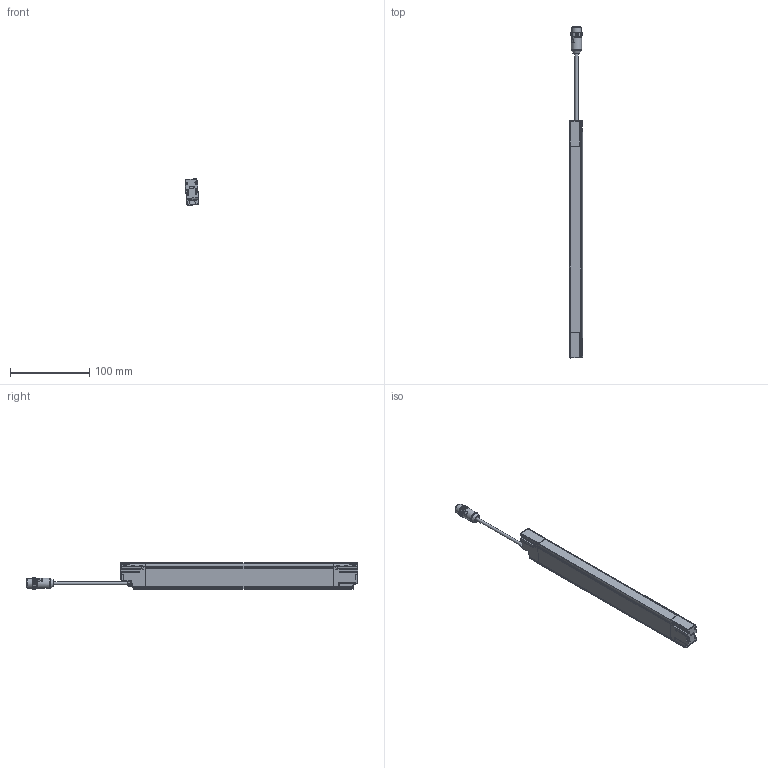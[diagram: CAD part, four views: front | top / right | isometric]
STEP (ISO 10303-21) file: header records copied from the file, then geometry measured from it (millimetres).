
FILE_DESCRIPTION(/* description */ (''),/* implementation_level */ '2;1');
FILE_NAME(/* name */ 'DSD-0625.stp',/* time_stamp */ '2015-02-23T17:01:58+01:00',/* author */ (''),/* organization */ (''),/* preprocessor_version */ 'ST-DEVELOPER v11',/* originating_system */ 'SIEMENS PLM Software NX 7.5',/* authorisation */ '');
FILE_SCHEMA (('AUTOMOTIVE_DESIGN { 1 0 10303 214 1 1 1 1 }'));
Length unit declared in the file: millimetre
Products named in the file (1): AP008101_00
Bounding box: 17.36 x 420.24 x 33.46 mm (x, y, z)
Surface area: 38933.5 mm2 (no closed solid volume)
Topology: 0 solids, 43 shells, 1072 faces, 3483 edges, 2342 vertices
Faces by surface type: cylinder 391, plane 307, bspline 155, torus 112, sphere 69, cone 38
Full cylindrical faces by diameter (mm): 1 x5, 1.2 x2, 2.6 x6, 4 x1, 8.3 x1, 9.4 x1, 10.4 x1, 12 x1, 13 x1, 13.5 x1, 14.5 x2
Entity records: 47174 total; most frequent: CARTESIAN_POINT 17704, DIRECTION 6326, ORIENTED_EDGE 5403, EDGE_CURVE 3342, AXIS2_PLACEMENT_3D 2406, VERTEX_POINT 2299, LINE 1514, VECTOR 1514
